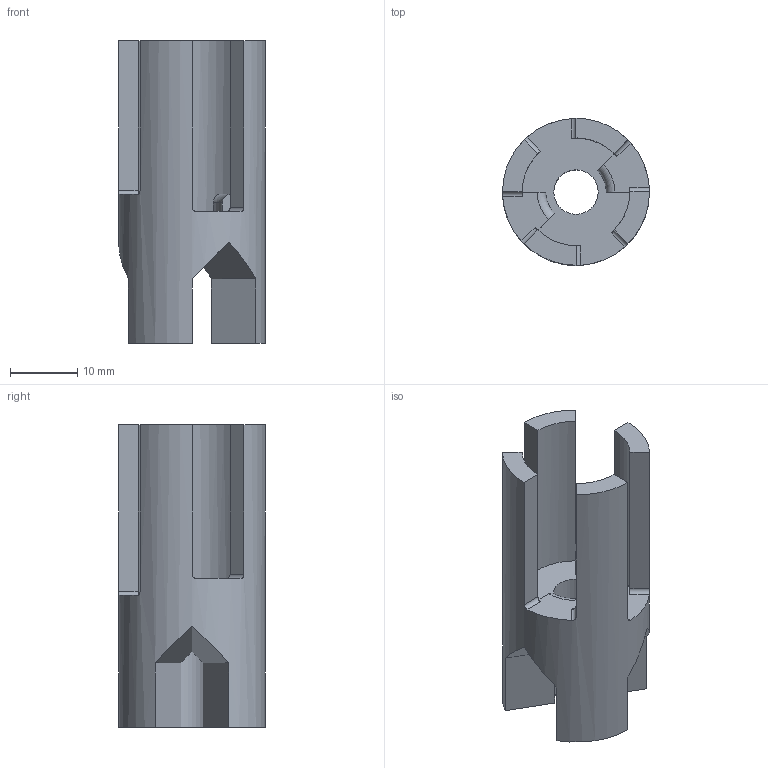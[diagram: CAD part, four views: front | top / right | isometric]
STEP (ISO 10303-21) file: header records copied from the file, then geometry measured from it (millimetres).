
FILE_DESCRIPTION(/* description */ (''),/* implementation_level */ '2;1');
FILE_NAME(/* name */ 'D:\Downloads\Project-ButWhatAbout-ECM-9x19-Barrel-DIY-V1-Package (3)\Revised Components\asdf\ECM CAD\STEP\Boring End Pilot Inch (0.250in).stp',/* time_stamp */ '2021-02-15T01:37:09-06:00',/* author */ ('johne'),/* organization */ (''),/* preprocessor_version */ 'ST-DEVELOPER v18',/* originating_system */ 'Autodesk Inventor 2020',/* authorisation */ '');
FILE_SCHEMA (('AUTOMOTIVE_DESIGN { 1 0 10303 214 3 1 1 }'));
Length unit declared in the file: millimetre
Products named in the file (1): End Pilot for 250in Rod v2
Bounding box: 21.84 x 21.84 x 45.02 mm (x, y, z)
Volume: 7104.9 mm3; surface area: 4570.5 mm2
Topology: 1 solids, 1 shells, 55 faces, 161 edges, 107 vertices
Faces by surface type: plane 37, cylinder 16, torus 2
Full cylindrical faces by diameter (mm): 6.604 x1, 21.844 x1
Entity records: 1998 total; most frequent: CARTESIAN_POINT 468, ORIENTED_EDGE 322, DIRECTION 311, EDGE_CURVE 161, AXIS2_PLACEMENT_3D 110, VERTEX_POINT 107, LINE 91, VECTOR 91
